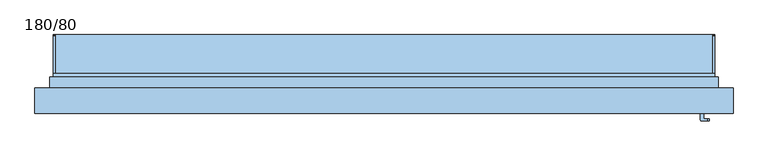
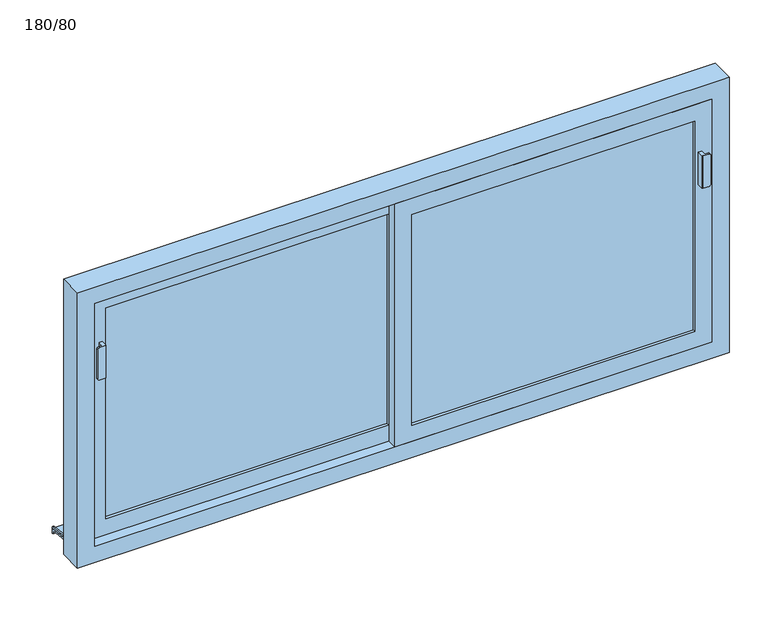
"""IFC4 building model written with IfcOpenShell, lengths in millimetres: window geometry, 2 Vantaux coulissants - Droits blanc : 180/80."""

from ifc_helpers import new_model, si_unit, point, frame, frame_2d, origin, place, context, project, spatial, polyline, circle_curve, trimmed, segment, composite_curve, outline, extrude, faceted_brep, source, transform, mapped, element, save
from ifc_brep_helpers import plane_surface, cylinder_surface, advanced_brep


def window_180_80_56cb69c2(model_context):
    return source(origin(), model_context, "Body", "SolidModel", [
        advanced_brep(
        [(-860.0, -87.5313182, 1350.0), (-862.4686818, -90.0, 1350.0), (-879.0477825, -90.0, 1350.0), (-879.0477825, -85.0, 1350.0), (-870.0, -85.0, 1350.0), (-870.0, -70.0, 1350.0), (-860.0, -70.0, 1350.0), (-860.0, -87.5313182, 1450.0), (-860.0, -70.0, 1450.0), (-870.0, -70.0, 1450.0), (-870.0, -85.0, 1450.0), (-879.0477825, -85.0, 1450.0), (-879.0477825, -90.0, 1450.0), (-862.4686818, -90.0, 1450.0), (-885.0, -85.0, 1355.9522175), (-885.0, -85.0, 1444.0477825), (-885.0, -90.0, 1355.9522175), (-885.0, -90.0, 1444.0477825)],
        [
            (0, 1),
            (1, 2),
            (2, 3),
            (3, 4),
            (4, 5),
            (5, 6),
            (6, 0),
            (7, 8),
            (8, 9),
            (9, 10),
            (10, 11),
            (11, 12),
            (12, 13),
            (13, 7),
            (6, 8),
            (7, 0),
            (5, 9),
            (4, 10),
            (3, 14, circle_curve(frame((-879.0477825, -85.0, 1355.9522175), z_axis=(0.0, 1.0, 0.0), x_axis=(-1.0, 0.0, 0.0)), 5.9522175)),
            (14, 15),
            (15, 11, circle_curve(frame((-879.0477825, -85.0, 1444.0477825), z_axis=(0.0, 1.0, 0.0), x_axis=(-1.0, 0.0, 0.0)), 5.9522175)),
            (14, 16),
            (16, 17),
            (17, 15),
            (12, 17, circle_curve(frame((-879.0477825, -90.0, 1444.0477825), z_axis=(0.0, -1.0, 0.0), x_axis=(-1.0, 0.0, 0.0)), 5.9522175)),
            (16, 2, circle_curve(frame((-879.0477825, -90.0, 1355.9522175), z_axis=(0.0, -1.0, 0.0), x_axis=(-1.0, 0.0, 0.0)), 5.9522175)),
            (1, 13),
        ],
        [
            plane_surface(frame((-860.0, -70.0, 1350.0), z_axis=(0.0, 0.0, -1.0), x_axis=(0.0, 1.0, 0.0))),
            plane_surface(frame((-860.0, -70.0, 1450.0), z_axis=(0.0, 0.0, 1.0), x_axis=(0.0, -1.0, 0.0))),
            plane_surface(frame((-860.0, -87.5313182, 1350.0), z_axis=(1.0, 0.0, 0.0), x_axis=(0.0, 0.0, 1.0))),
            plane_surface(frame((-860.0, -70.0, 1350.0), z_axis=(0.0, 1.0, 0.0), x_axis=(0.0, 0.0, 1.0))),
            plane_surface(frame((-870.0, -70.0, 1350.0), z_axis=(-1.0, 0.0, 0.0), x_axis=(0.0, 0.0, 1.0))),
            plane_surface(frame((-870.0, -85.0, 1350.0), z_axis=(0.0, 1.0, 0.0), x_axis=(0.0, 0.0, 1.0))),
            plane_surface(frame((-885.0, -85.0, 1350.0), z_axis=(-1.0, 0.0, 0.0), x_axis=(0.0, 0.0, 1.0))),
            plane_surface(frame((-885.0, -90.0, 1350.0), z_axis=(0.0, -1.0, 0.0), x_axis=(0.0, 0.0, 1.0))),
            plane_surface(frame((-862.4686818, -90.0, 1350.0), z_axis=(0.7071067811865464, -0.7071067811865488, 0.0), x_axis=(0.0, 0.0, 1.0))),
            cylinder_surface(frame((-879.0477825, -85.0, 1444.0477825), z_axis=(0.0, 1.0, 0.0), x_axis=(-1.0, 0.0, 0.0)), 5.9522175),
            cylinder_surface(frame((-879.0477825, -85.0, 1355.9522175), z_axis=(0.0, 1.0, 0.0), x_axis=(-1.0, 0.0, 0.0)), 5.9522175),
        ],
        [
            (0, [[1, 2, 3, 4, 5, 6, 7]]),
            (1, [[8, 9, 10, 11, 12, 13, 14]]),
            (2, [[15, -8, 16, -7]]),
            (3, [[17, -9, -15, -6]]),
            (4, [[18, -10, -17, -5]]),
            (5, [[-4, 19, 20, 21, -11, -18]]),
            (6, [[22, 23, 24, -20]]),
            (7, [[-13, 25, -23, 26, -2, 27]]),
            (8, [[-16, -14, -27, -1]]),
            (9, [[-21, -24, -25, -12]]),
            (10, [[-26, -22, -19, -3]]),
        ],
    ),
        advanced_brep(
        [(860.0, -117.5313182, 1350.0), (860.0, -100.0, 1350.0), (870.0, -100.0, 1350.0), (870.0, -115.0, 1350.0), (879.0477825, -115.0, 1350.0), (879.0477825, -120.0, 1350.0), (862.4686818, -120.0, 1350.0), (860.0, -117.5313182, 1450.0), (862.4686818, -120.0, 1450.0), (879.0477825, -120.0, 1450.0), (879.0477825, -115.0, 1450.0), (870.0, -115.0, 1450.0), (870.0, -100.0, 1450.0), (860.0, -100.0, 1450.0), (885.0, -115.0, 1444.0477825), (885.0, -115.0, 1355.9522175), (885.0, -120.0, 1444.0477825), (885.0, -120.0, 1355.9522175)],
        [
            (0, 1),
            (1, 2),
            (2, 3),
            (3, 4),
            (4, 5),
            (5, 6),
            (6, 0),
            (7, 8),
            (8, 9),
            (9, 10),
            (10, 11),
            (11, 12),
            (12, 13),
            (13, 7),
            (0, 7),
            (13, 1),
            (12, 2),
            (11, 3),
            (10, 14, circle_curve(frame((879.0477825, -115.0, 1444.0477825), z_axis=(0.0, 1.0, 0.0), x_axis=(1.0, 0.0, 0.0)), 5.9522175)),
            (14, 15),
            (15, 4, circle_curve(frame((879.0477825, -115.0, 1355.9522175), z_axis=(0.0, 1.0, 0.0), x_axis=(1.0, 0.0, 0.0)), 5.9522175)),
            (14, 16),
            (16, 17),
            (17, 15),
            (8, 6),
            (5, 17, circle_curve(frame((879.0477825, -120.0, 1355.9522175), z_axis=(0.0, -1.0, 0.0), x_axis=(1.0, 0.0, 0.0)), 5.9522175)),
            (16, 9, circle_curve(frame((879.0477825, -120.0, 1444.0477825), z_axis=(0.0, -1.0, 0.0), x_axis=(1.0, 0.0, 0.0)), 5.9522175)),
        ],
        [
            plane_surface(frame((860.0, -100.0, 1350.0), z_axis=(0.0, 0.0, -1.0), x_axis=(0.0, 1.0, 0.0))),
            plane_surface(frame((860.0, -100.0, 1450.0), z_axis=(0.0, 0.0, 1.0), x_axis=(0.0, -1.0, 0.0))),
            plane_surface(frame((860.0, -117.5313182, 1350.0), z_axis=(-1.0, 0.0, 0.0), x_axis=(0.0, 0.0, 1.0))),
            plane_surface(frame((860.0, -100.0, 1350.0), z_axis=(0.0, 1.0, 0.0), x_axis=(0.0, 0.0, 1.0))),
            plane_surface(frame((870.0, -100.0, 1350.0), z_axis=(1.0, 0.0, 0.0), x_axis=(0.0, 0.0, 1.0))),
            plane_surface(frame((870.0, -115.0, 1350.0), z_axis=(0.0, 1.0, 0.0), x_axis=(0.0, 0.0, 1.0))),
            plane_surface(frame((885.0, -115.0, 1350.0), z_axis=(1.0, 0.0, 0.0), x_axis=(0.0, 0.0, 1.0))),
            plane_surface(frame((885.0, -120.0, 1350.0), z_axis=(0.0, -1.0, 0.0), x_axis=(0.0, 0.0, 1.0))),
            plane_surface(frame((862.4686818, -120.0, 1350.0), z_axis=(-0.7071067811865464, -0.7071067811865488, 0.0), x_axis=(0.0, 0.0, 1.0))),
            cylinder_surface(frame((879.0477825, -115.0, 1444.0477825), z_axis=(0.0, 1.0, 0.0), x_axis=(1.0, 0.0, 0.0)), 5.9522175),
            cylinder_surface(frame((879.0477825, -115.0, 1355.9522175), z_axis=(0.0, 1.0, 0.0), x_axis=(1.0, 0.0, 0.0)), 5.9522175),
        ],
        [
            (0, [[1, 2, 3, 4, 5, 6, 7]]),
            (1, [[8, 9, 10, 11, 12, 13, 14]]),
            (2, [[-1, 15, -14, 16]]),
            (3, [[-2, -16, -13, 17]]),
            (4, [[-3, -17, -12, 18]]),
            (5, [[-18, -11, 19, 20, 21, -4]]),
            (6, [[-20, 22, 23, 24]]),
            (7, [[25, -6, 26, -23, 27, -9]]),
            (8, [[-7, -25, -8, -15]]),
            (9, [[-10, -27, -22, -19]]),
            (10, [[-5, -21, -24, -26]]),
        ],
    ),
        extrude(outline(polyline([(115.0, 776.06614), (115.0, 760.5104235), (110.0, 761.0359447), (110.0, 771.3364494), (-20.0, 785.0), (-20.0, 800.0), (-15.0, 800.0), (-15.0, 789.7296906), (115.0, 776.06614)])), frame((-900.0, 0.0, 0.0), z_axis=(1.0, 0.0, 0.0), x_axis=(0.0, 1.0, 0.0)), (0.0, 0.0, 1.0), 1800.0),
        extrude(outline(composite_curve([segment(polyline([(115.0, 776.06614), (-15.0, 789.7296906), (-15.0, 794.757232), (111.4181139, 781.4701528)]), True, "CONTINUOUS"), segment(trimmed(circle_curve(frame_2d((111.0, 777.4920652)), 4.0), [point((111.4181139, 781.4701528))], [point((115.0, 777.4920652))], False, "CARTESIAN"), True, "CONTINUOUS"), segment(polyline([(115.0, 777.4920652), (115.0, 776.06614)]), True, "CONTINUOUS")], self_intersect=False)), frame((-900.0, 0.0, 0.0), z_axis=(1.0, 0.0, 0.0), x_axis=(0.0, 1.0, 0.0)), (0.0, 0.0, 1.0), 5.0),
        extrude(outline(composite_curve([segment(polyline([(115.0, 776.06614), (-15.0, 789.7296906), (-15.0, 794.757232), (111.4181139, 781.4701528)]), True, "CONTINUOUS"), segment(trimmed(circle_curve(frame_2d((111.0, 777.4920652)), 4.0), [point((111.4181139, 781.4701528))], [point((115.0, 777.4920652))], False, "CARTESIAN"), True, "CONTINUOUS"), segment(polyline([(115.0, 777.4920652), (115.0, 776.06614)]), True, "CONTINUOUS")], self_intersect=False)), frame((895.0, 0.0, 0.0), z_axis=(1.0, 0.0, 0.0), x_axis=(0.0, 1.0, 0.0)), (0.0, 0.0, 1.0), 5.0),
        extrude(outline(polyline([(-850.0, -49.0), (-25.0, -49.0), (-25.0, -61.0), (-850.0, -61.0), (-850.0, -49.0)])), frame((0.0, 0.0, 900.0), z_axis=(0.0, 0.0, 1.0), x_axis=(1.0, 0.0, 0.0)), (0.0, 0.0, 1.0), 650.0),
        extrude(outline(polyline([(850.0, 25.0), (1600.0, 25.0), (1600.0, -900.0), (850.0, -900.0), (850.0, 25.0)]), holes=[polyline([(900.0, -850.0), (1550.0, -850.0), (1550.0, -25.0), (900.0, -25.0), (900.0, -850.0)])]), frame((0.0, -70.0, 0.0), z_axis=(0.0, 1.0, 0.0), x_axis=(0.0, 0.0, 1.0)), (0.0, 0.0, 1.0), 30.0),
        extrude(outline(polyline([(25.0, -79.0), (850.0, -79.0), (850.0, -91.0), (25.0, -91.0), (25.0, -79.0)])), frame((0.0, 0.0, 900.0), z_axis=(0.0, 0.0, 1.0), x_axis=(1.0, 0.0, 0.0)), (0.0, 0.0, 1.0), 650.0),
        extrude(outline(polyline([(850.0, 900.0), (1600.0, 900.0), (1600.0, -25.0), (850.0, -25.0), (850.0, 900.0)]), holes=[polyline([(900.0, 25.0), (1550.0, 25.0), (1550.0, 850.0), (900.0, 850.0), (900.0, 25.0)])]), frame((0.0, -100.0, 0.0), z_axis=(0.0, 1.0, 0.0), x_axis=(0.0, 0.0, 1.0)), (0.0, 0.0, 1.0), 30.0),
        faceted_brep([(-950.0, -100.0, 800.0), (-950.0, -30.0, 800.0), (-900.0, -30.0, 800.0), (-900.0, 0.0, 800.0), (900.0, 0.0, 800.0), (900.0, -30.0, 800.0), (950.0, -30.0, 800.0), (950.0, -100.0, 800.0), (-950.0, -100.0, 1650.0), (-950.0, -30.0, 1650.0), (950.0, -30.0, 1650.0), (900.0, -30.0, 839.3761425), (-900.0, -30.0, 839.3761425), (-885.0, -30.0, 1585.0), (-885.0, -30.0, 865.0), (885.0, -30.0, 865.0), (885.0, -30.0, 1585.0), (-900.0, 10.0, 828.6581748), (-900.0, 10.0, 795.0), (-900.0, 0.0, 795.0), (900.0, 0.0, 795.0), (900.0, 10.0, 795.0), (900.0, 10.0, 828.6581748), (950.0, -100.0, 1650.0), (900.0, -100.0, 1600.0), (900.0, -100.0, 850.0), (-900.0, -100.0, 850.0), (-900.0, -100.0, 1600.0), (-885.0, -40.0, 1585.0), (-885.0, -40.0, 865.0), (885.0, -40.0, 865.0), (885.0, -40.0, 1585.0), (900.0, -40.0, 1600.0), (-900.0, -40.0, 1600.0), (-900.0, -40.0, 850.0), (900.0, -40.0, 850.0)], [[[0, 1, 2, 3, 4, 5, 6, 7]], [[1, 0, 8, 9]], [[1, 9, 10, 6, 5, 11, 12, 2], [13, 14, 15, 16]], [[12, 17, 18, 19, 3, 2]], [[3, 19, 20, 4]], [[4, 20, 21, 22, 11, 5]], [[6, 10, 23, 7]], [[0, 7, 23, 8], [24, 25, 26, 27]], [[13, 28, 29, 14]], [[29, 30, 15, 14]], [[31, 16, 15, 30]], [[17, 12, 11, 22]], [[32, 33, 34, 35], [28, 31, 30, 29]], [[34, 33, 27, 26]], [[26, 25, 35, 34]], [[24, 32, 35, 25]], [[18, 17, 22, 21]], [[19, 18, 21, 20]], [[13, 16, 31, 28]], [[33, 32, 24, 27]], [[10, 9, 8, 23]]]),
        extrude(outline(polyline([(800.0, -910.0), (800.0, -900.0), (1600.0, -900.0), (1600.0, 900.0), (800.0, 900.0), (800.0, 910.0), (1610.0, 910.0), (1610.0, -910.0), (800.0, -910.0)])), frame((0.0, -30.0, 0.0), z_axis=(0.0, 1.0, 0.0), x_axis=(0.0, 0.0, 1.0)), (0.0, 0.0, 1.0), 30.0),
    ])


if __name__ == "__main__":
    model = new_model("IFC4")
    model_context = context("Model", 3, world=origin())
    ifc_project = project(units=[si_unit("LENGTHUNIT", "METRE", prefix="MILLI")], contexts=[model_context])
    site = spatial("IfcSite", under=ifc_project)
    building = spatial("IfcBuilding", under=site)
    placement = place(None, origin())
    window_180_80_shape = window_180_80_56cb69c2(model_context)
    element("IfcWindow", 1, ObjectType="2 Vantaux coulissants - Droits blanc : 180/80", at=placement, inside=building, context=model_context, shape_type="MappedRepresentation", body=[
        mapped(window_180_80_shape, transform((0.0, 0.0, 0.0), x_axis=(1.0, 0.0, 0.0), y_axis=(0.0, 1.0, 0.0), z_axis=(0.0, 0.0, 1.0))),
    ])
    save(model, "model.ifc")
